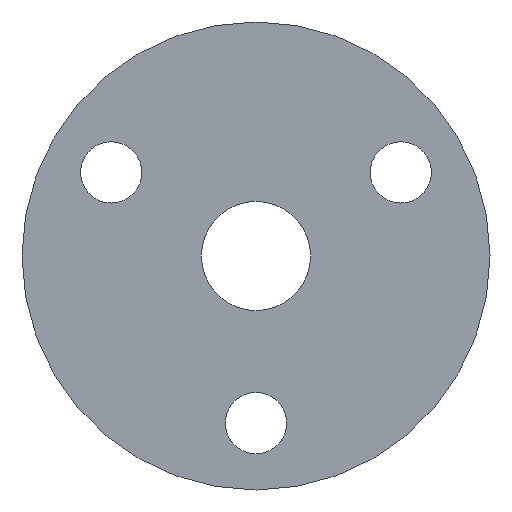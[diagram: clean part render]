
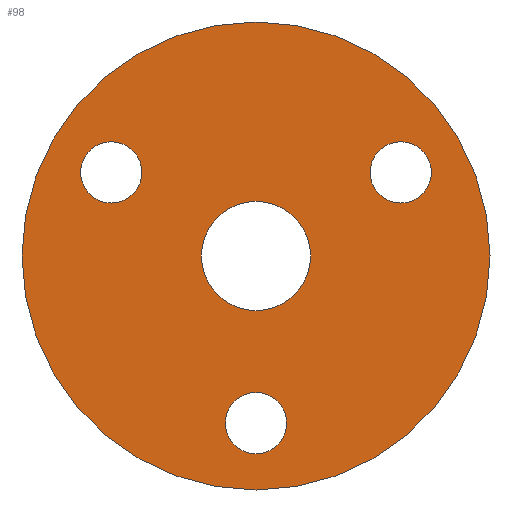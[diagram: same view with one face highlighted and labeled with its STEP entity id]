
A CAD part, front view. The second image highlights one B-rep face of the part: STEP entity #98.
In plain terms, the highlighted planar face has unit normal (0, -1, 0).
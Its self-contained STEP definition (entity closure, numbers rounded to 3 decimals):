
#1 = EDGE_LOOP ( 'NONE', ( #36, #191 ) ) ;
#5 = EDGE_CURVE ( 'NONE', #88, #195, #311, .T. ) ;
#6 = CARTESIAN_POINT ( 'NONE',  ( 0., -5.75, 0. ) ) ;
#13 = CARTESIAN_POINT ( 'NONE',  ( 0., -5.75, 0. ) ) ;
#14 = VERTEX_POINT ( 'NONE', #424 ) ;
#23 = DIRECTION ( 'NONE',  ( 0., 1., 0. ) ) ;
#27 = DIRECTION ( 'NONE',  ( 0., 0., 1. ) ) ;
#36 = ORIENTED_EDGE ( 'NONE', *, *, #418, .T. ) ;
#38 = CIRCLE ( 'NONE', #354, 2.75 ) ;
#47 = DIRECTION ( 'NONE',  ( 0., 0., 1. ) ) ;
#48 = CIRCLE ( 'NONE', #383, 2.75 ) ;
#49 = VERTEX_POINT ( 'NONE', #162 ) ;
#51 = EDGE_LOOP ( 'NONE', ( #425, #97 ) ) ;
#57 = CIRCLE ( 'NONE', #347, 2.75 ) ;
#63 = EDGE_CURVE ( 'NONE', #195, #88, #171, .T. ) ;
#67 = CARTESIAN_POINT ( 'NONE',  ( 0., -5.75, 21. ) ) ;
#71 = ORIENTED_EDGE ( 'NONE', *, *, #403, .T. ) ;
#82 = VERTEX_POINT ( 'NONE', #437 ) ;
#84 = VERTEX_POINT ( 'NONE', #476 ) ;
#88 = VERTEX_POINT ( 'NONE', #138 ) ;
#97 = ORIENTED_EDGE ( 'NONE', *, *, #63, .T. ) ;
#98 = ADVANCED_FACE ( 'NONE', ( #173, #250, #243, #136, #395 ), #428, .F. ) ;
#99 = DIRECTION ( 'NONE',  ( 0., 1., 0. ) ) ;
#101 = DIRECTION ( 'NONE',  ( 0., 1., 0. ) ) ;
#113 = DIRECTION ( 'NONE',  ( 0., 0., 1. ) ) ;
#128 = ORIENTED_EDGE ( 'NONE', *, *, #422, .T. ) ;
#135 = CARTESIAN_POINT ( 'NONE',  ( 0., -5.75, -4.902 ) ) ;
#136 = FACE_BOUND ( 'NONE', #389, .T. ) ;
#137 = DIRECTION ( 'NONE',  ( 0., 0., 1. ) ) ;
#138 = CARTESIAN_POINT ( 'NONE',  ( 0., -5.75, 4.902 ) ) ;
#142 = EDGE_CURVE ( 'NONE', #231, #14, #202, .T. ) ;
#144 = EDGE_LOOP ( 'NONE', ( #128, #241 ) ) ;
#155 = ORIENTED_EDGE ( 'NONE', *, *, #320, .F. ) ;
#158 = CARTESIAN_POINT ( 'NONE',  ( 0., -5.75, 0. ) ) ;
#160 = AXIS2_PLACEMENT_3D ( 'NONE', #13, #166, #460 ) ;
#162 = CARTESIAN_POINT ( 'NONE',  ( 0., -5.75, -21. ) ) ;
#165 = EDGE_LOOP ( 'NONE', ( #155, #328 ) ) ;
#166 = DIRECTION ( 'NONE',  ( 0., 1., 0. ) ) ;
#168 = CARTESIAN_POINT ( 'NONE',  ( 0., -5.75, -15. ) ) ;
#171 = CIRCLE ( 'NONE', #160, 4.902 ) ;
#172 = EDGE_CURVE ( 'NONE', #371, #84, #280, .T. ) ;
#173 = FACE_BOUND ( 'NONE', #51, .T. ) ;
#175 = AXIS2_PLACEMENT_3D ( 'NONE', #177, #349, #217 ) ;
#177 = CARTESIAN_POINT ( 'NONE',  ( 12.99, -5.75, 7.5 ) ) ;
#191 = ORIENTED_EDGE ( 'NONE', *, *, #298, .T. ) ;
#195 = VERTEX_POINT ( 'NONE', #135 ) ;
#196 = DIRECTION ( 'NONE',  ( 0., 1., 0. ) ) ;
#201 = ORIENTED_EDGE ( 'NONE', *, *, #172, .T. ) ;
#202 = CIRCLE ( 'NONE', #382, 2.75 ) ;
#212 = CARTESIAN_POINT ( 'NONE',  ( 0., -5.75, 0. ) ) ;
#214 = CARTESIAN_POINT ( 'NONE',  ( 0., -5.75, -15. ) ) ;
#217 = DIRECTION ( 'NONE',  ( 0., 0., 1. ) ) ;
#230 = DIRECTION ( 'NONE',  ( 0., 0., 1. ) ) ;
#231 = VERTEX_POINT ( 'NONE', #478 ) ;
#233 = CARTESIAN_POINT ( 'NONE',  ( 0., -5.75, -12.25 ) ) ;
#234 = VERTEX_POINT ( 'NONE', #448 ) ;
#236 = AXIS2_PLACEMENT_3D ( 'NONE', #212, #101, #281 ) ;
#241 = ORIENTED_EDGE ( 'NONE', *, *, #142, .T. ) ;
#243 = FACE_BOUND ( 'NONE', #1, .T. ) ;
#250 = FACE_BOUND ( 'NONE', #144, .T. ) ;
#253 = CARTESIAN_POINT ( 'NONE',  ( 0., -5.75, 0. ) ) ;
#279 = AXIS2_PLACEMENT_3D ( 'NONE', #6, #314, #421 ) ;
#280 = CIRCLE ( 'NONE', #353, 2.75 ) ;
#281 = DIRECTION ( 'NONE',  ( 0., 0., 1. ) ) ;
#298 = EDGE_CURVE ( 'NONE', #82, #234, #57, .T. ) ;
#305 = DIRECTION ( 'NONE',  ( 0., 1., 0. ) ) ;
#307 = CARTESIAN_POINT ( 'NONE',  ( 12.99, -5.75, 7.5 ) ) ;
#311 = CIRCLE ( 'NONE', #279, 4.902 ) ;
#313 = CIRCLE ( 'NONE', #455, 21. ) ;
#314 = DIRECTION ( 'NONE',  ( 0., 1., 0. ) ) ;
#320 = EDGE_CURVE ( 'NONE', #49, #479, #454, .T. ) ;
#323 = CARTESIAN_POINT ( 'NONE',  ( -12.99, -5.75, 7.5 ) ) ;
#328 = ORIENTED_EDGE ( 'NONE', *, *, #429, .F. ) ;
#347 = AXIS2_PLACEMENT_3D ( 'NONE', #307, #305, #230 ) ;
#349 = DIRECTION ( 'NONE',  ( 0., 1., 0. ) ) ;
#353 = AXIS2_PLACEMENT_3D ( 'NONE', #214, #397, #469 ) ;
#354 = AXIS2_PLACEMENT_3D ( 'NONE', #401, #361, #27 ) ;
#361 = DIRECTION ( 'NONE',  ( 0., 1., 0. ) ) ;
#362 = AXIS2_PLACEMENT_3D ( 'NONE', #158, #196, #47 ) ;
#371 = VERTEX_POINT ( 'NONE', #233 ) ;
#382 = AXIS2_PLACEMENT_3D ( 'NONE', #323, #99, #473 ) ;
#383 = AXIS2_PLACEMENT_3D ( 'NONE', #168, #450, #113 ) ;
#389 = EDGE_LOOP ( 'NONE', ( #201, #71 ) ) ;
#395 = FACE_OUTER_BOUND ( 'NONE', #165, .T. ) ;
#397 = DIRECTION ( 'NONE',  ( 0., 1., 0. ) ) ;
#401 = CARTESIAN_POINT ( 'NONE',  ( -12.99, -5.75, 7.5 ) ) ;
#403 = EDGE_CURVE ( 'NONE', #84, #371, #48, .T. ) ;
#418 = EDGE_CURVE ( 'NONE', #234, #82, #465, .T. ) ;
#421 = DIRECTION ( 'NONE',  ( 0., 0., 1. ) ) ;
#422 = EDGE_CURVE ( 'NONE', #14, #231, #38, .T. ) ;
#424 = CARTESIAN_POINT ( 'NONE',  ( -12.99, -5.75, 10.25 ) ) ;
#425 = ORIENTED_EDGE ( 'NONE', *, *, #5, .T. ) ;
#428 = PLANE ( 'NONE',  #236 ) ;
#429 = EDGE_CURVE ( 'NONE', #479, #49, #313, .T. ) ;
#437 = CARTESIAN_POINT ( 'NONE',  ( 12.99, -5.75, 4.75 ) ) ;
#448 = CARTESIAN_POINT ( 'NONE',  ( 12.99, -5.75, 10.25 ) ) ;
#450 = DIRECTION ( 'NONE',  ( 0., 1., 0. ) ) ;
#454 = CIRCLE ( 'NONE', #362, 21. ) ;
#455 = AXIS2_PLACEMENT_3D ( 'NONE', #253, #23, #137 ) ;
#460 = DIRECTION ( 'NONE',  ( 0., 0., 1. ) ) ;
#465 = CIRCLE ( 'NONE', #175, 2.75 ) ;
#469 = DIRECTION ( 'NONE',  ( 0., 0., 1. ) ) ;
#473 = DIRECTION ( 'NONE',  ( 0., 0., 1. ) ) ;
#476 = CARTESIAN_POINT ( 'NONE',  ( 0., -5.75, -17.75 ) ) ;
#478 = CARTESIAN_POINT ( 'NONE',  ( -12.99, -5.75, 4.75 ) ) ;
#479 = VERTEX_POINT ( 'NONE', #67 ) ;
